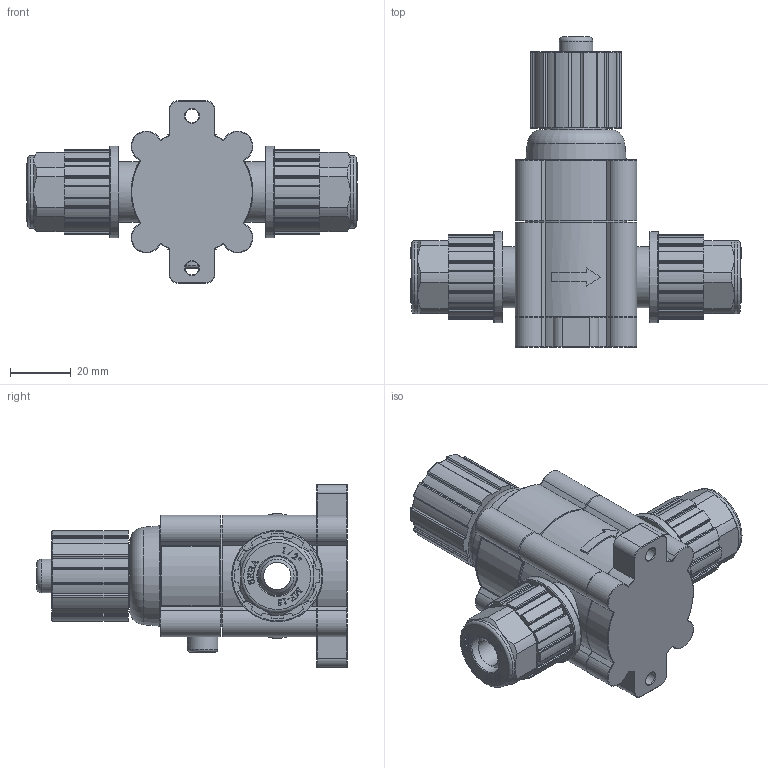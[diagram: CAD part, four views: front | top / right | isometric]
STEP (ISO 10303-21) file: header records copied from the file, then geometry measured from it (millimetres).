
FILE_DESCRIPTION(/* description */ (''),/* implementation_level */ '2;1');
FILE_NAME(/* name */ 'E:\SEBA\004 SEBA BACK UP(2020-12-23)\SEBA\001 DRAWING\INVENTOR\밸브\MANUAL VALVE\SM-PA-MF015-C\SM-PA-MF015-C.stp',/* time_stamp */ '2022-06-08T08:39:59+09:00',/* author */ ('KBS'),/* organization */ (''),/* preprocessor_version */ 'ST-DEVELOPER v15.2',/* originating_system */ 'Autodesk Inventor 2014',/* authorisation */ '');
FILE_SCHEMA (('AUTOMOTIVE_DESIGN { 1 0 10303 214 3 1 1 }'));
Products named in the file (17): Base; Nut_M4; Nut_M4_1; Nut_M4_2; Body; PFA_Nut; PFA_Nut_1; Shaft; Shaft2; Indicator; Diaphragm; Stepping; Case; Handle; Cover; SM-PA-MF015-C
Bounding box: 108.4 x 102 x 60 mm (x, y, z)
Volume: 90544 mm3; surface area: 59667.1 mm2
Topology: 16 solids, 16 shells, 2997 faces, 8386 edges, 5517 vertices
Faces by surface type: plane 1330, cylinder 1251, bspline 270, torus 119, cone 27
Full cylindrical faces by diameter (mm): 1 x1, 4.2 x6, 4.5 x14, 5 x1, 6 x4, 7 x4, 8 x4, 9 x3, 10 x1, 11 x1, 12.8 x2, 14 x2, 15 x3, 16.4 x2, 16.5 x2, 18 x2, 19.8 x1, 20 x4, 24 x2, 30 x10, 33 x7
Entity records: 96641 total; most frequent: CARTESIAN_POINT 27142, ORIENTED_EDGE 14782, DIRECTION 14087, EDGE_CURVE 7391, VERTEX_POINT 4922, AXIS2_PLACEMENT_3D 4814, LINE 4459, VECTOR 4459
